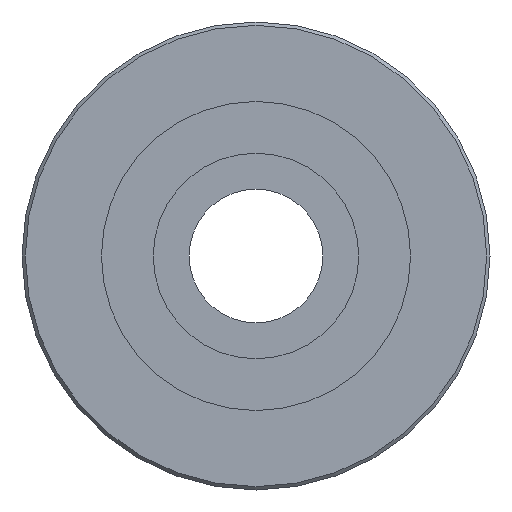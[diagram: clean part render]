
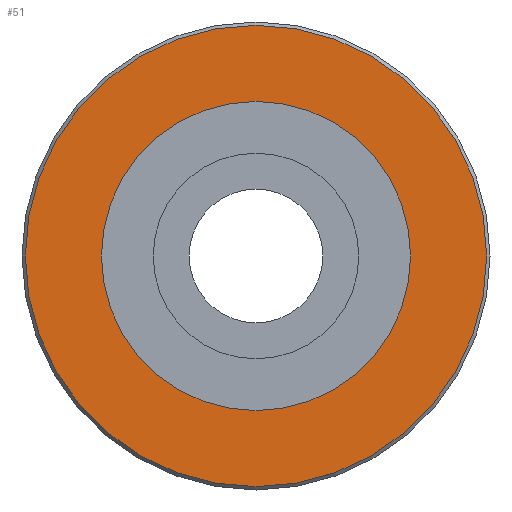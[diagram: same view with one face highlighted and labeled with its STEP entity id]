
A CAD part, left-side view. The second image highlights one B-rep face of the part: STEP entity #51.
In plain terms, the highlighted planar face has unit normal (-1, 0, 0).
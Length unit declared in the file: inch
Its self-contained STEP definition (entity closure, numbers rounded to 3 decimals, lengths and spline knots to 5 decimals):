
#24=CARTESIAN_POINT('',(11.25,34.95,0.));
#25=VERTEX_POINT('',#24);
#26=CARTESIAN_POINT('',(11.25,21.15,0.));
#27=DIRECTION('',(-1.,0.,0.));
#28=DIRECTION('',(0.,1.,0.));
#29=AXIS2_PLACEMENT_3D('',#26,#27,#28);
#30=CIRCLE('',#29,13.8);
#31=EDGE_CURVE('',#25,#25,#30,.T.);
#32=ORIENTED_EDGE('',*,*,#31,.T.);
#33=EDGE_LOOP('',(#32));
#34=FACE_OUTER_BOUND('',#33,.T.);
#35=CARTESIAN_POINT('',(11.25,30.4,0.));
#36=VERTEX_POINT('',#35);
#37=CARTESIAN_POINT('',(11.25,21.15,0.));
#38=DIRECTION('',(-1.,0.,0.));
#39=DIRECTION('',(0.,1.,0.));
#40=AXIS2_PLACEMENT_3D('',#37,#38,#39);
#41=CIRCLE('',#40,9.25);
#42=EDGE_CURVE('',#36,#36,#41,.T.);
#43=ORIENTED_EDGE('',*,*,#42,.F.);
#44=EDGE_LOOP('',(#43));
#45=FACE_BOUND('',#44,.T.);
#46=CARTESIAN_POINT('',(11.25,32.675,0.));
#47=DIRECTION('',(-1.,0.,0.));
#48=DIRECTION('',(0.,1.,0.));
#49=AXIS2_PLACEMENT_3D('',#46,#47,#48);
#50=PLANE('',#49);
#51=ADVANCED_FACE('',(#34,#45),#50,.T.);
